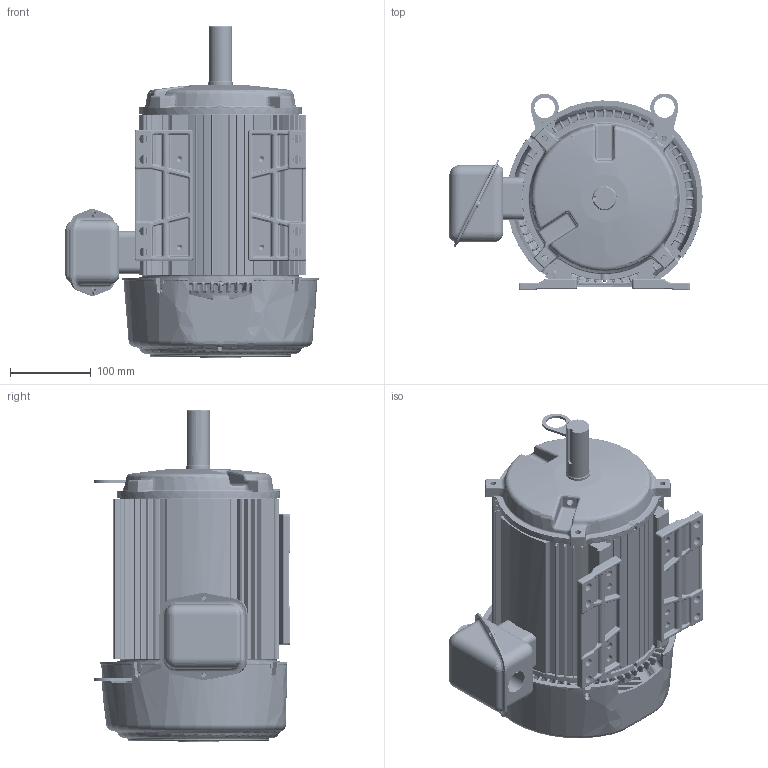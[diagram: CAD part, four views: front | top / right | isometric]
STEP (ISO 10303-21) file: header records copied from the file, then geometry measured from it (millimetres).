
FILE_DESCRIPTION((''),'2;1');
FILE_NAME('STD_SHORT_NON_FLNG_ASM','2013-04-17T',('emd2341'),('Nidec Motor Corporation'),'PRO/ENGINEER BY PARAMETRIC TECHNOLOGY CORPORATION, 2010140','PRO/ENGINEER BY PARAMETRIC TECHNOLOGY CORPORATION, 2010140','');
FILE_SCHEMA(('CONFIG_CONTROL_DESIGN'));
Length unit declared in the file: inch
Products named in the file (17): 0390926_AF0; 0374476; 0390920; 0390928; 0382071-BKT_AF0; 0298010_AF0; 0384147_ASM; 0361253-BKT_AF0; 0910238_AF1; 0361254_ASM; 0362988; 0361265; 0541983; 0027197; 0361286; 0390417; STD_SHORT_NON_FLNG_ASM
Assembly tree (18 placements, depth 3):
  STD_SHORT_NON_FLNG_ASM
    0390926_AF0
    0374476  x2
    0390920
    0390928
    0384147_ASM
      0382071-BKT_AF0
      0298010_AF0
    0361254_ASM
      0361253-BKT_AF0
      0910238_AF1
    0362988  x2
    0361265
    0541983
    0027197
    0361286
    0390417
Bounding box: 313.46 x 243.52 x 411 mm (x, y, z)
Volume: 2131087 mm3; surface area: 1052249.1 mm2
Topology: 18 solids, 18 shells, 5490 faces, 13128 edges, 7629 vertices
Faces by surface type: bspline 2414, cylinder 1243, plane 977, torus 385, cone 265, sphere 206
Entity records: 282265 total; most frequent: CARTESIAN_POINT 178941, ORIENTED_EDGE 24648, DIRECTION 17623, EDGE_CURVE 12324, AXIS2_PLACEMENT_3D 7441, VERTEX_POINT 7195, EDGE_LOOP 5311, FACE_OUTER_BOUND 5148
